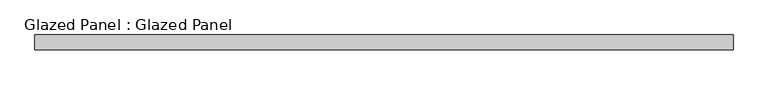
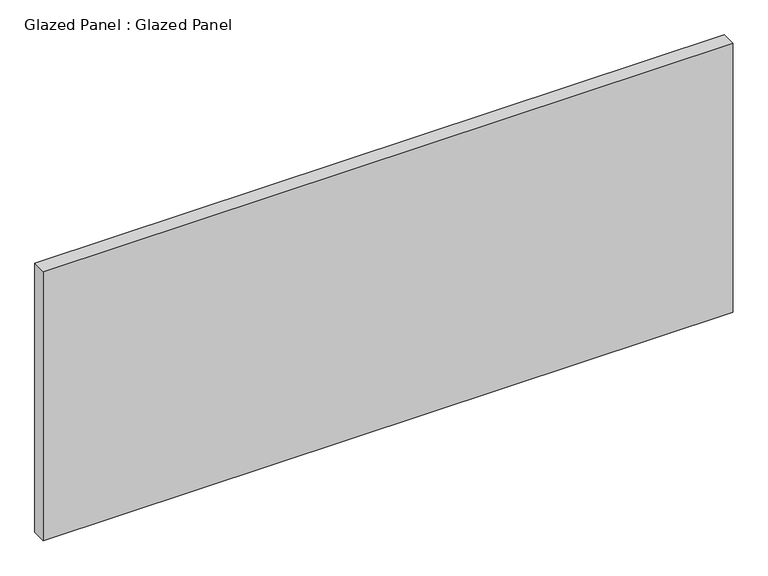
"""IFC4 building model written with IfcOpenShell, lengths in millimetres: plate geometry, Glazed Panel : Glazed Panel."""

import ifcopenshell
import ifcopenshell.guid

model = None  # the IFC model being written
_history = None  # IfcOwnerHistory: only IFC2X3 demands one
_inside = {}  # id of a spatial element -> (the spatial element, [elements in it])
_under = {}  # id of a project, library or spatial element -> (it, [spatial elements below it])
_declared = {}  # id of a project -> (the project, [libraries it declares])
_typed = {}  # id of a type object -> (the type object, [elements of that type])
_made_of = {}  # id of a material, layer set ... -> (it, [elements and type objects made of it])


def new_model(schema):
    """Start an empty IFC model of exactly this schema.

    Asked for "IFC4X3", IfcOpenShell would pick the latest addendum, in which some entities
    have other attributes; the version numbers below select the first issue.
    IFC2X3 requires an IfcOwnerHistory on every rooted entity: one is made here for all.
    """
    global model, _history
    if schema == "IFC4X3":
        model = ifcopenshell.file(schema_version=(4, 3, 0, 0))
    else:
        model = ifcopenshell.file(schema=schema)
    _inside.clear()
    _under.clear()
    _declared.clear()
    _typed.clear()
    _made_of.clear()
    _history = None
    if model.schema == "IFC2X3":
        org = make("IfcOrganization", Name="unknown")
        user = make(
            "IfcPersonAndOrganization",
            ThePerson=make("IfcPerson", FamilyName="unknown"),
            TheOrganization=org,
        )
        app = make(
            "IfcApplication",
            ApplicationDeveloper=org,
            Version="unknown",
            ApplicationFullName="unknown",
            ApplicationIdentifier="unknown",
        )
        _history = make(
            "IfcOwnerHistory",
            OwningUser=user,
            OwningApplication=app,
            ChangeAction="ADDED",
            CreationDate=0,
        )
    return model


def make(cls, **values):
    """One entity of the class cls with the attributes given. An attribute that is None is left unset."""
    return model.create_entity(
        cls, **{name: value for name, value in values.items() if value is not None}
    )


def rooted(cls, **values):
    """An entity with a GlobalId (a new one), such as an element, a storey or a relation."""
    return make(cls, GlobalId=ifcopenshell.guid.new(), OwnerHistory=_history, **values)


def si_unit(unit_type, name, prefix=None):
    """IfcSIUnit, for example si_unit("LENGTHUNIT", "METRE", prefix="MILLI")."""
    return make("IfcSIUnit", UnitType=unit_type, Prefix=prefix, Name=name)


def assignment(units):
    """IfcUnitAssignment: the units of a project."""
    return None if units is None else make("IfcUnitAssignment", Units=units)


def point(xyz):
    """IfcCartesianPoint."""
    return None if xyz is None else make("IfcCartesianPoint", Coordinates=xyz)


def direction(xyz):
    """IfcDirection."""
    return None if xyz is None else make("IfcDirection", DirectionRatios=xyz)


def frame(location, z_axis=None, x_axis=None):
    """IfcAxis2Placement3D, a coordinate frame: its origin and axes. An axis left out is left unset."""
    return make(
        "IfcAxis2Placement3D",
        Location=point(location),
        Axis=direction(z_axis),
        RefDirection=direction(x_axis),
    )


def origin():
    """The frame at (0, 0, 0) with its axes left unset."""
    return frame((0.0, 0.0, 0.0))


def origin_with_axes():
    """The frame at (0, 0, 0) with the z axis (0, 0, 1) and the x axis (1, 0, 0) written out."""
    return frame((0.0, 0.0, 0.0), z_axis=(0.0, 0.0, 1.0), x_axis=(1.0, 0.0, 0.0))


def place(relative_to, where):
    """IfcLocalPlacement: puts the frame where relative to a parent placement (None: the world)."""
    return make(
        "IfcLocalPlacement", PlacementRelTo=relative_to, RelativePlacement=where
    )


def context(
    kind, dimensions, precision=None, world=None, true_north=None, identifier=None
):
    """IfcGeometricRepresentationContext, for example the 3D "Model" context."""
    return make(
        "IfcGeometricRepresentationContext",
        ContextIdentifier=identifier,
        ContextType=kind,
        CoordinateSpaceDimension=dimensions,
        Precision=precision,
        WorldCoordinateSystem=world,
        TrueNorth=true_north,
    )


def project(units=None, contexts=None):
    """IfcProject with its units and contexts."""
    return rooted(
        "IfcProject",
        Name="project",
        RepresentationContexts=contexts,
        UnitsInContext=assignment(units),
    )


def spatial(cls, under=None, at=None, **own):
    """A site, building, storey or space (cls), placed at a placement, below another one or the project."""
    s = rooted(cls, ObjectPlacement=at, **own)
    if under is not None:
        _under.setdefault(under.id(), (under, []))[1].append(s)
    return s


def polyline(points):
    """IfcPolyline through the points."""
    return make("IfcPolyline", Points=[point(p) for p in points])


def outline(outer, holes=None, kind="AREA"):
    """IfcArbitraryClosedProfileDef: a profile drawn as a closed curve; with holes, ...WithVoids."""
    if holes is None:
        return make("IfcArbitraryClosedProfileDef", ProfileType=kind, OuterCurve=outer)
    return make(
        "IfcArbitraryProfileDefWithVoids",
        ProfileType=kind,
        OuterCurve=outer,
        InnerCurves=holes,
    )


def extrude(swept, where, along, depth):
    """IfcExtrudedAreaSolid: the profile swept, set in the frame where, extruded along a direction by depth."""
    return make(
        "IfcExtrudedAreaSolid",
        SweptArea=swept,
        Position=where,
        ExtrudedDirection=direction(along),
        Depth=depth,
    )


def shape(context_of_items, identifier, shape_type, items):
    """IfcShapeRepresentation: the items that make up one representation, for example the "Body"."""
    return make(
        "IfcShapeRepresentation",
        ContextOfItems=context_of_items,
        RepresentationIdentifier=identifier,
        RepresentationType=shape_type,
        Items=items,
    )


def source(mapping_origin, context_of_items, identifier, shape_type, items):
    """IfcRepresentationMap: a shape defined once, which mapped items show again and again."""
    return make(
        "IfcRepresentationMap",
        MappingOrigin=mapping_origin,
        MappedRepresentation=shape(context_of_items, identifier, shape_type, items),
    )


def transform(
    local_origin,
    x_axis=None,
    y_axis=None,
    z_axis=None,
    scale=None,
    scale2=None,
    scale3=None,
    uniform=True,
):
    """IfcCartesianTransformationOperator3D, or its non-uniform kind. x_axis, y_axis, z_axis: its Axis1, 2, 3."""
    if uniform:
        return make(
            "IfcCartesianTransformationOperator3D",
            Axis1=direction(x_axis),
            Axis2=direction(y_axis),
            LocalOrigin=point(local_origin),
            Scale=scale,
            Axis3=direction(z_axis),
        )
    return make(
        "IfcCartesianTransformationOperator3DnonUniform",
        Axis1=direction(x_axis),
        Axis2=direction(y_axis),
        LocalOrigin=point(local_origin),
        Scale=scale,
        Axis3=direction(z_axis),
        Scale2=scale2,
        Scale3=scale3,
    )


def mapped(mapping_source, mapping_target):
    """IfcMappedItem: shows the shape of a source again, moved by a transform."""
    return make(
        "IfcMappedItem", MappingSource=mapping_source, MappingTarget=mapping_target
    )


def made_of(thing, what):
    """Note that an element or type object is made of a material, layer set ...; save() writes the relation."""
    if what is not None:
        _made_of.setdefault(what.id(), (what, []))[1].append(thing)
    return thing


def element(
    cls,
    number,
    at=None,
    inside=None,
    cuts=None,
    type_object=None,
    material=None,
    context=None,
    identifier="Body",
    shape_type=None,
    held_by="IfcProductDefinitionShape",
    body=None,
    shapes=None,
    **own,
):
    """One element of the class cls, such as IfcWall. Its Tag is "e" and its number.

    at: its placement. inside: the storey or other place that contains it. cuts: it is an
    opening in that element (IfcRelVoidsElement). A single representation is given by context,
    identifier, shape_type and body (its items); several are given by shapes. held_by: the class
    of the entity that holds the representations. save() writes the other relations.
    """
    e = rooted(cls, Tag="e%d" % number, ObjectPlacement=at, **own)
    if body is not None:
        shapes = [shape(context, identifier, shape_type, body)]
    if shapes is not None:
        e.Representation = make(held_by, Representations=shapes)
    if inside is not None:
        _inside.setdefault(inside.id(), (inside, []))[1].append(e)
    if cuts is not None:
        rooted(
            "IfcRelVoidsElement", RelatingBuildingElement=cuts, RelatedOpeningElement=e
        )
    if type_object is not None:
        _typed.setdefault(type_object.id(), (type_object, []))[1].append(e)
    return made_of(e, material)


def aggregate(whole, parts):
    """IfcRelAggregates: a whole, such as a stair, and the parts it consists of."""
    return rooted("IfcRelAggregates", RelatingObject=whole, RelatedObjects=parts)


def save(model, path):
    """Write the relations noted so far, then the file.

    IfcRelAggregates (storeys below a building ...), IfcRelContainedInSpatialStructure (elements
    in a storey), IfcRelDefinesByType, IfcRelAssociatesMaterial and IfcRelDeclares: one each for
    every whole, place, type object, material and project.
    """
    for whole, parts in _under.values():
        aggregate(whole, parts)
    for where, things in _inside.values():
        rooted(
            "IfcRelContainedInSpatialStructure",
            RelatedElements=things,
            RelatingStructure=where,
        )
    for kind, things in _typed.values():
        rooted("IfcRelDefinesByType", RelatedObjects=things, RelatingType=kind)
    for what, things in _made_of.values():
        rooted("IfcRelAssociatesMaterial", RelatedObjects=things, RelatingMaterial=what)
    for by, libraries in _declared.values():
        rooted("IfcRelDeclares", RelatingContext=by, RelatedDefinitions=libraries)
    model.write(path)


def glazed_panel_glazed_panel_bbfcd834(model_context):
    return source(origin(), model_context, "Body", "SweptSolid", [
        extrude(outline(polyline([(600.3827129, 38.1), (-600.3827129, 38.1), (-600.3827129, 63.5), (600.3827129, 63.5), (600.3827129, 38.1)])), origin_with_axes(), (0.0, 0.0, 1.0), 495.1124715),
    ])


if __name__ == "__main__":
    model = new_model("IFC4")
    model_context = context("Model", 3, world=origin())
    ifc_project = project(units=[si_unit("LENGTHUNIT", "METRE", prefix="MILLI")], contexts=[model_context])
    site = spatial("IfcSite", under=ifc_project)
    building = spatial("IfcBuilding", under=site)
    placement = place(None, origin())
    glazed_panel_glazed_panel_shape = glazed_panel_glazed_panel_bbfcd834(model_context)
    element("IfcPlate", 1, ObjectType="Glazed Panel : Glazed Panel", at=placement, inside=building, context=model_context, shape_type="MappedRepresentation", body=[
        mapped(glazed_panel_glazed_panel_shape, transform((0.0, 0.0, 0.0), x_axis=(1.0, 0.0, 0.0), y_axis=(0.0, 1.0, 0.0), z_axis=(0.0, 0.0, 1.0))),
    ])
    save(model, "model.ifc")
